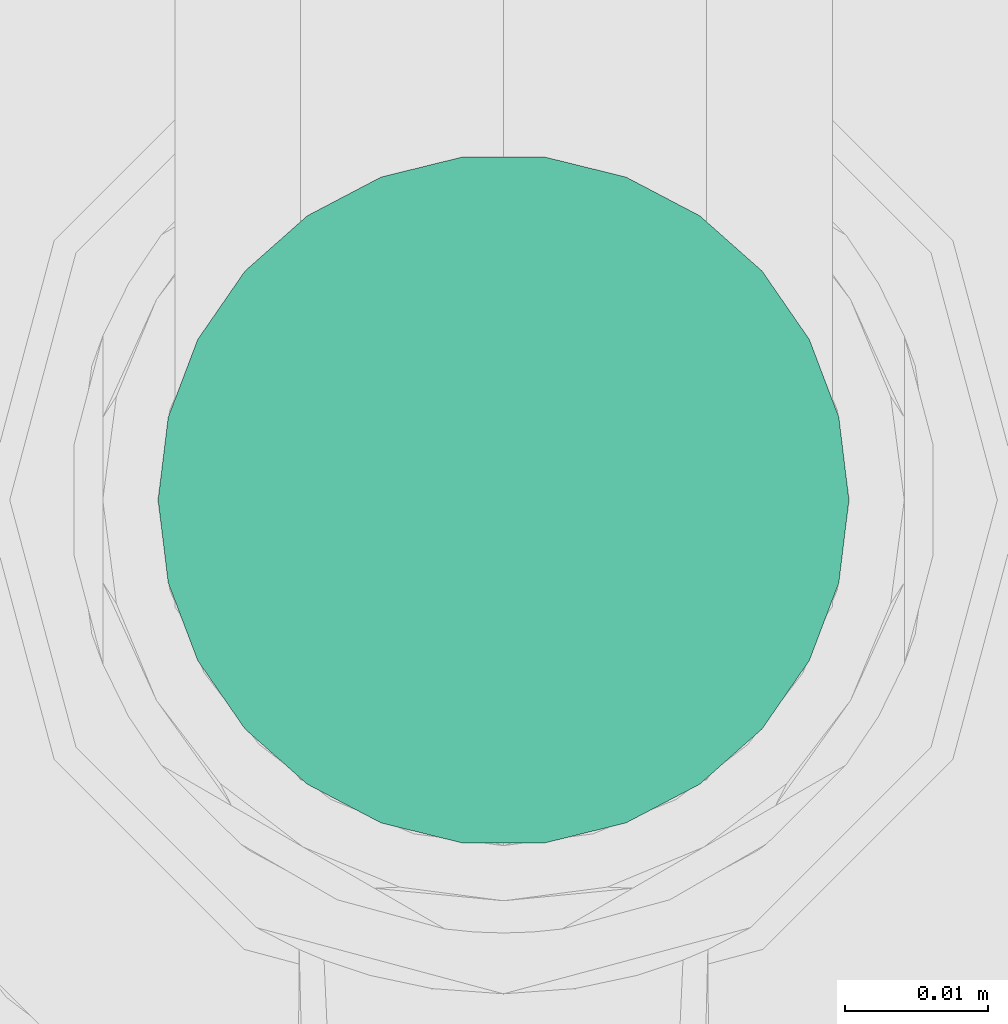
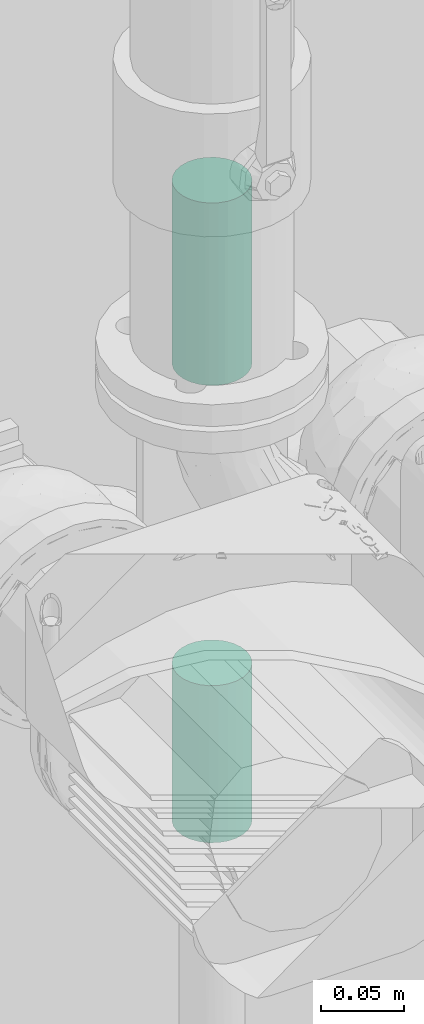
# One storey, part 81 of 94: 2 flow segments.
"""IFC2X3 building model written with IfcOpenShell, lengths in millimetres."""

from ifc_helpers import new_model, entity, si_unit, converted_unit, derived_unit, direction, frame, origin, origin_2d_with_axis, place, context, subcontext, project, spatial, circle, extrude, type_object, element, save


model = new_model("IFC2X3")

# Units and contexts
model_context = context("Model", 3, precision=0.01, world=origin(), true_north=direction((6.123031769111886e-17, 1.0)))
body_context = subcontext(model_context, "Body", "Model", "MODEL_VIEW")
ifc_project = project(units=[si_unit("LENGTHUNIT", "METRE", prefix="MILLI"), si_unit("AREAUNIT", "SQUARE_METRE"), si_unit("VOLUMEUNIT", "CUBIC_METRE"), converted_unit("PLANEANGLEUNIT", "DEGREE", entity("IfcRatioMeasure", 0.017453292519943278), si_unit("PLANEANGLEUNIT", "RADIAN"), dimensions=[0, 0, 0, 0, 0, 0, 0]), si_unit("MASSUNIT", "GRAM", prefix="KILO"), derived_unit("MASSDENSITYUNIT", [(si_unit("MASSUNIT", "GRAM", prefix="KILO"), 1), (si_unit("LENGTHUNIT", "METRE"), -3)]), derived_unit("IONCONCENTRATIONUNIT", [(si_unit("MASSUNIT", "GRAM", prefix="KILO"), 1), (si_unit("LENGTHUNIT", "METRE"), -3)]), derived_unit("MOMENTOFINERTIAUNIT", [(si_unit("LENGTHUNIT", "METRE"), 4)]), si_unit("TIMEUNIT", "SECOND"), si_unit("FREQUENCYUNIT", "HERTZ"), si_unit("THERMODYNAMICTEMPERATUREUNIT", "DEGREE_CELSIUS"), derived_unit("THERMALTRANSMITTANCEUNIT", [(si_unit("MASSUNIT", "GRAM", prefix="KILO"), 1), (si_unit("THERMODYNAMICTEMPERATUREUNIT", "KELVIN"), -1), (si_unit("TIMEUNIT", "SECOND"), -3)]), derived_unit("THERMALCONDUCTANCEUNIT", [(si_unit("MASSUNIT", "GRAM", prefix="KILO"), 1), (si_unit("THERMODYNAMICTEMPERATUREUNIT", "KELVIN"), -1), (si_unit("TIMEUNIT", "SECOND"), -3), (si_unit("LENGTHUNIT", "METRE"), 1)]), derived_unit("VOLUMETRICFLOWRATEUNIT", [(si_unit("LENGTHUNIT", "METRE"), 3), (si_unit("TIMEUNIT", "SECOND"), -1)]), derived_unit("MASSFLOWRATEUNIT", [(si_unit("MASSUNIT", "GRAM", prefix="KILO"), 1), (si_unit("TIMEUNIT", "SECOND"), -1)]), derived_unit("ROTATIONALFREQUENCYUNIT", [(si_unit("TIMEUNIT", "SECOND"), -1)]), si_unit("ELECTRICCURRENTUNIT", "AMPERE"), si_unit("ELECTRICVOLTAGEUNIT", "VOLT"), si_unit("POWERUNIT", "WATT"), si_unit("FORCEUNIT", "NEWTON", prefix="KILO"), si_unit("ILLUMINANCEUNIT", "LUX"), si_unit("LUMINOUSFLUXUNIT", "LUMEN"), si_unit("LUMINOUSINTENSITYUNIT", "CANDELA"), derived_unit("USERDEFINED", [(si_unit("MASSUNIT", "GRAM", prefix="KILO"), -1), (si_unit("LENGTHUNIT", "METRE"), -2), (si_unit("TIMEUNIT", "SECOND"), 3), (si_unit("LUMINOUSFLUXUNIT", "LUMEN"), 1)]), derived_unit("USERDEFINED", [(si_unit("MASSUNIT", "GRAM", prefix="KILO"), 1), (si_unit("TIMEUNIT", "SECOND"), -3), (si_unit("LENGTHUNIT", "METRE"), 3), (si_unit("ELECTRICCURRENTUNIT", "AMPERE"), -2)]), derived_unit("SOUNDPOWERUNIT", [(si_unit("MASSUNIT", "GRAM", prefix="KILO"), 1), (si_unit("TIMEUNIT", "SECOND"), -3), (si_unit("LENGTHUNIT", "METRE"), 2)]), derived_unit("SOUNDPRESSUREUNIT", [(si_unit("MASSUNIT", "GRAM", prefix="KILO"), 1), (si_unit("LENGTHUNIT", "METRE"), -1), (si_unit("TIMEUNIT", "SECOND"), -2)]), derived_unit("LINEARVELOCITYUNIT", [(si_unit("LENGTHUNIT", "METRE"), 1), (si_unit("TIMEUNIT", "SECOND"), -1)]), si_unit("PRESSUREUNIT", "PASCAL"), derived_unit("USERDEFINED", [(si_unit("MASSUNIT", "GRAM", prefix="KILO"), 1), (si_unit("LENGTHUNIT", "METRE"), -2), (si_unit("TIMEUNIT", "SECOND"), -2)]), derived_unit("LINEARFORCEUNIT", [(si_unit("MASSUNIT", "GRAM", prefix="KILO"), 1), (si_unit("TIMEUNIT", "SECOND"), -2)]), derived_unit("PLANARFORCEUNIT", [(si_unit("MASSUNIT", "GRAM", prefix="KILO"), 1), (si_unit("LENGTHUNIT", "METRE"), -1), (si_unit("TIMEUNIT", "SECOND"), -2)]), derived_unit("SPECIFICHEATCAPACITYUNIT", [(si_unit("THERMODYNAMICTEMPERATUREUNIT", "KELVIN"), -1), (si_unit("LENGTHUNIT", "METRE"), 2), (si_unit("TIMEUNIT", "SECOND"), -2)]), derived_unit("HEATINGVALUEUNIT", [(si_unit("LENGTHUNIT", "METRE"), 2), (si_unit("TIMEUNIT", "SECOND"), -2)]), derived_unit("VAPORPERMEABILITYUNIT", [(si_unit("LENGTHUNIT", "METRE"), -1), (si_unit("TIMEUNIT", "SECOND"), 1)]), derived_unit("DYNAMICVISCOSITYUNIT", [(si_unit("MASSUNIT", "GRAM", prefix="KILO"), 1), (si_unit("TIMEUNIT", "SECOND"), -1), (si_unit("LENGTHUNIT", "METRE"), -1)]), derived_unit("THERMALEXPANSIONCOEFFICIENTUNIT", [(si_unit("THERMODYNAMICTEMPERATUREUNIT", "KELVIN"), -1)]), derived_unit("MODULUSOFELASTICITYUNIT", [(si_unit("MASSUNIT", "GRAM", prefix="KILO"), 1), (si_unit("LENGTHUNIT", "METRE"), -1), (si_unit("TIMEUNIT", "SECOND"), -2)]), derived_unit("ISOTHERMALMOISTURECAPACITYUNIT", [(si_unit("LENGTHUNIT", "METRE"), 3), (si_unit("MASSUNIT", "GRAM", prefix="KILO"), -1)]), derived_unit("MOISTUREDIFFUSIVITYUNIT", [(si_unit("TIMEUNIT", "SECOND"), -1), (si_unit("LENGTHUNIT", "METRE"), 2)])], contexts=[model_context])

# Site, building, storey
site_placement = place(None, origin())
site = spatial("IfcSite", under=ifc_project, at=site_placement, Name="Default", CompositionType="ELEMENT")
building_placement = place(site_placement, origin())
building = spatial("IfcBuilding", under=site, at=building_placement, CompositionType="ELEMENT")
storey_placement = place(building_placement, origin())
storey = spatial("IfcBuildingStorey", under=building, at=storey_placement, Name="Niveau 0", CompositionType="ELEMENT", Elevation=0.0)

# Flow segments
pipe_segment_type_1 = type_object("IfcPipeSegmentType", Name="Canalisation:Bride acier", PredefinedType="NOTDEFINED")
flow_segment_1_placement = place(storey_placement, origin())
element("IfcFlowSegment", 1, at=flow_segment_1_placement, inside=storey, type_object=pipe_segment_type_1, Name="Canalisation:Bride acier", ObjectType="Canalisation:Bride acier", context=body_context, shape_type="SweptSolid", body=[
    extrude(circle(Radius=24.13, at=origin_2d_with_axis()), frame((-8572.145865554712, 9922.470546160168, 2062.7301626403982)), (0.0, 0.0, 1.0), 133.7350584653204),
])
pipe_segment_type_2 = type_object("IfcPipeSegmentType", Name="Canalisation:Standard", PredefinedType="NOTDEFINED")
flow_segment_2_placement = place(storey_placement, origin())
element("IfcFlowSegment", 2, at=flow_segment_2_placement, inside=storey, type_object=pipe_segment_type_2, Name="Canalisation:Standard", ObjectType="Canalisation:Standard", context=body_context, shape_type="SweptSolid", body=[
    extrude(circle(Radius=24.13, at=origin_2d_with_axis()), frame((-8572.145865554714, 9922.470546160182, 1727.60345755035)), (0.0, 0.0, 1.0), 115.12670509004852),
])

save(model, "model.ifc")
